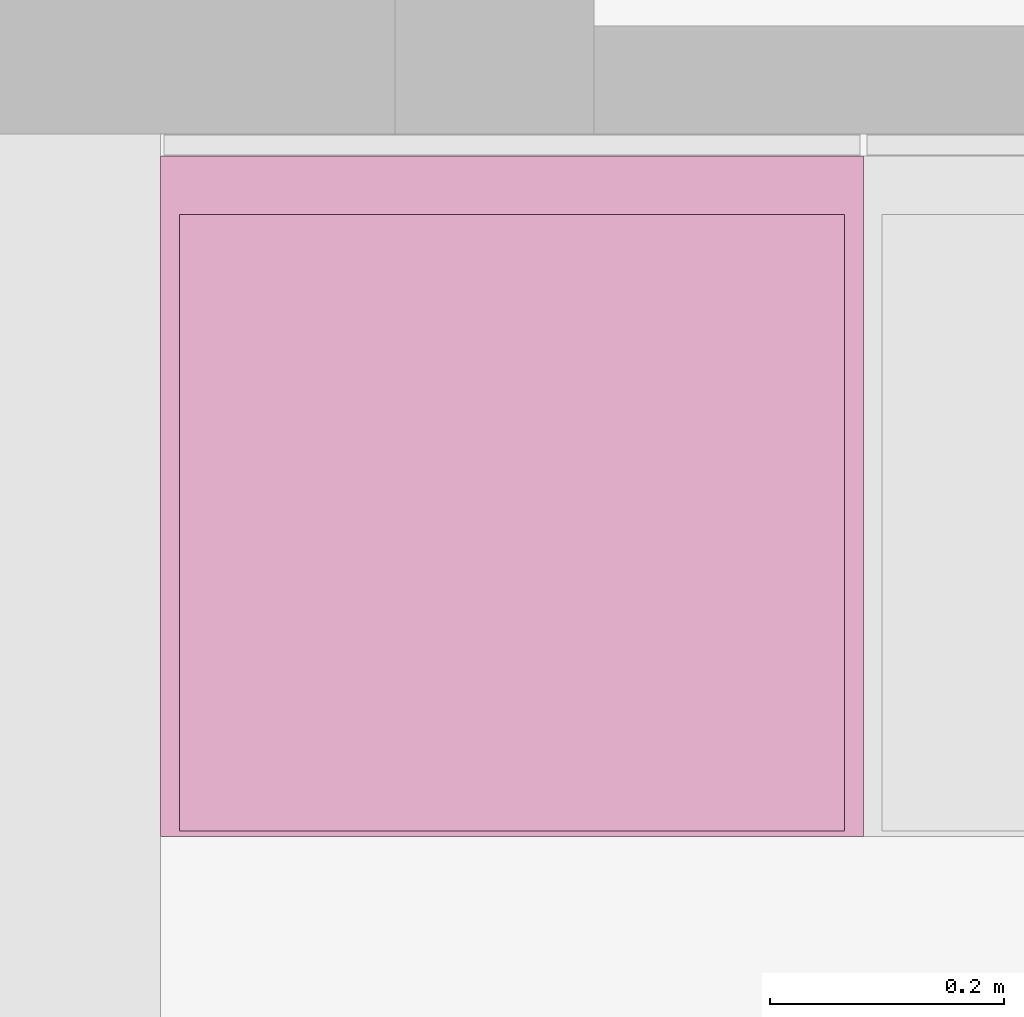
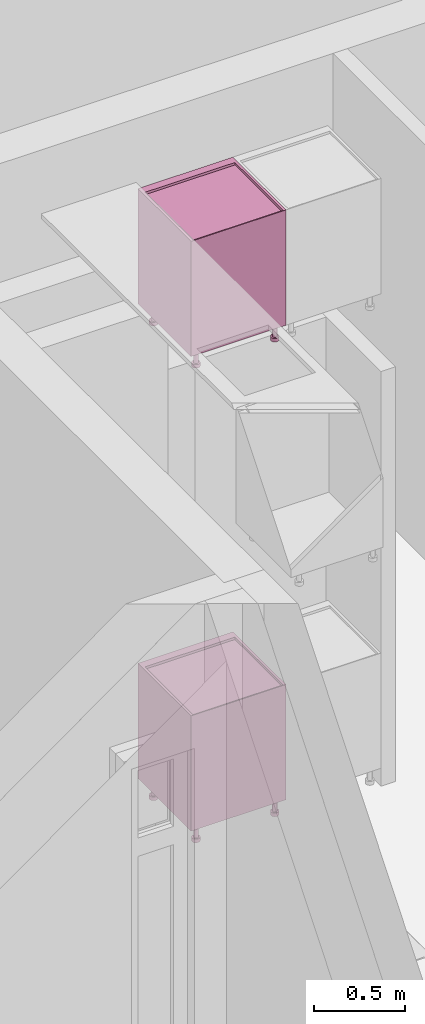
# One storey, part 60 of 125: 2 furnishings.
"""IFC2X3 building model written with IfcOpenShell, lengths in millimetres."""

from ifc_helpers import new_model, entity, si_unit, converted_unit, direction, frame, origin, place, context, subcontext, project, spatial, faceted_brep, source, transform, mapped, material, type_object, type_shapes, element, save


model = new_model("IFC2X3")

# Units and contexts
model_context = context("Model", 3, precision=0.01, world=origin(), true_north=direction((6.123233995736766e-17, 1.0)))
plan_context = context("Plan", 3, precision=0.01, world=origin(), true_north=direction((6.123233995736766e-17, 1.0)))
body_context = subcontext(model_context, "Body", "Model", "MODEL_VIEW")
ifc_project = project(units=[si_unit("LENGTHUNIT", "METRE", prefix="MILLI"), converted_unit("PLANEANGLEUNIT", "DEGREE", entity("IfcPlaneAngleMeasure", 0.017453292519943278), si_unit("PLANEANGLEUNIT", "RADIAN"), dimensions=[0, 0, 0, 0, 0, 0, 0]), si_unit("AREAUNIT", "SQUARE_METRE")], contexts=[model_context, plan_context])

# Site, building, storey, space
site_placement = place(None, origin())
site = spatial("IfcSite", under=ifc_project, at=site_placement, Name="Default", CompositionType="ELEMENT")
building_placement = place(site_placement, origin())
building = spatial("IfcBuilding", under=site, at=building_placement, CompositionType="ELEMENT")
storey_placement = place(building_placement, frame((0.0, 0.0, 3125.0)))
storey = spatial("IfcBuildingStorey", under=building, at=storey_placement, Name="2K", CompositionType="ELEMENT", Elevation=3125.0)
space_placement = place(storey_placement, origin())
space = spatial("IfcSpace", under=storey, at=space_placement, Name="2-4.2", CompositionType="ELEMENT", InteriorOrExteriorSpace="INTERNAL")

# Furnishings
ifc_material = material(Name="<Unnamed>")
furniture_type = type_object("IfcFurnitureType", Name="HR_Casework_Kitchen_Generic_Appliance_v3:Dishwasher", AssemblyPlace="NOTDEFINED", material=ifc_material)
shared_shape = source(origin(), body_context, "Body", "Brep", [
    faceted_brep([(305.7003264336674, -585.7846096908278, -3101.0), (310.6708891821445, -581.9705627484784, -3101.0), (300.70032643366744, -577.1243556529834, -3101.0), (297.32379306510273, -578.5229615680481, -3101.0), (299.91198351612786, -588.1822198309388, -3101.0), (303.59982137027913, -574.8994949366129, -3101.0), (314.4849361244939, -577.0, -3101.0), (305.82468208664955, -572.0, -3101.0), (307.2232880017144, -568.6234666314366, -3101.0), (316.8825462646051, -571.2116570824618, -3101.0), (307.70032643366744, -565.0, -3101.0), (317.7003264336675, -565.0, -3101.0), (307.2232880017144, -561.3765333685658, -3101.0), (316.88254626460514, -558.7883429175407, -3101.0), (305.82468208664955, -558.0, -3101.0), (314.484936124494, -553.0, -3101.0), (303.59982137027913, -555.1005050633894, -3101.0), (310.67088918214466, -548.0294372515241, -3101.0), (300.70032643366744, -552.875644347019, -3101.0), (305.7003264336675, -544.2153903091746, -3101.0), (297.32379306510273, -551.4770384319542, -3101.0), (299.91198351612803, -541.8177801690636, -3101.0), (293.7003264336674, -551.0, -3101.0), (293.70032643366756, -541.0, -3101.0), (290.07685980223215, -551.4770384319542, -3101.0), (287.488669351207, -541.8177801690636, -3101.0), (286.70032643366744, -552.875644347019, -3101.0), (281.7003264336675, -544.2153903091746, -3101.0), (283.80083149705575, -555.1005050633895, -3101.0), (276.7297636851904, -548.029437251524, -3101.0), (281.5759707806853, -558.0, -3101.0), (272.91571674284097, -553.0, -3101.0), (270.51810660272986, -558.7883429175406, -3101.0), (280.1773648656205, -561.3765333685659, -3101.0), (269.7003264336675, -565.0, -3101.0), (279.7003264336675, -565.0, -3101.0), (270.51810660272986, -571.2116570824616, -3101.0), (280.1773648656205, -568.6234666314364, -3101.0), (272.9157167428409, -577.0, -3101.0), (281.57597078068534, -572.0, -3101.0), (276.7297636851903, -581.9705627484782, -3101.0), (283.80083149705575, -574.8994949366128, -3101.0), (281.70032643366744, -585.7846096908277, -3101.0), (286.70032643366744, -577.1243556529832, -3101.0), (287.4886693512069, -588.1822198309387, -3101.0), (290.07685980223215, -578.5229615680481, -3101.0), (293.7003264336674, -589.0, -3101.0), (293.70032643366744, -579.0, -3101.0), (299.91198351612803, -541.8177801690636, -3125.0), (305.7003264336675, -544.2153903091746, -3125.0), (310.67088918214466, -548.0294372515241, -3125.0), (314.484936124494, -553.0, -3125.0), (316.88254626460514, -558.7883429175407, -3125.0), (317.7003264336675, -565.0, -3125.0), (316.8825462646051, -571.2116570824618, -3125.0), (314.4849361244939, -577.0, -3125.0), (310.6708891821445, -581.9705627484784, -3125.0), (305.7003264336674, -585.7846096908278, -3125.0), (299.91198351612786, -588.1822198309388, -3125.0), (293.7003264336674, -589.0, -3125.0), (287.4886693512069, -588.1822198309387, -3125.0), (281.70032643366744, -585.7846096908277, -3125.0), (276.7297636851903, -581.9705627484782, -3125.0), (272.9157167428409, -577.0, -3125.0), (270.51810660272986, -571.2116570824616, -3125.0), (269.7003264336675, -565.0, -3125.0), (270.51810660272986, -558.7883429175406, -3125.0), (272.91571674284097, -553.0, -3125.0), (276.7297636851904, -548.029437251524, -3125.0), (281.7003264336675, -544.2153903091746, -3125.0), (287.488669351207, -541.8177801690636, -3125.0), (293.70032643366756, -541.0, -3125.0), (297.32379306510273, -578.5229615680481, -3025.0), (300.70032643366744, -577.1243556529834, -3025.0), (303.59982137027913, -574.8994949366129, -3025.0), (305.8246820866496, -572.0, -3025.0), (307.2232880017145, -568.6234666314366, -3025.0), (307.70032643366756, -565.0, -3025.0), (307.2232880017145, -561.3765333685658, -3025.0), (305.8246820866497, -558.0, -3025.0), (303.5998213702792, -555.1005050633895, -3025.0), (300.70032643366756, -552.875644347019, -3025.0), (297.32379306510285, -551.4770384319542, -3025.0), (293.70032643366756, -551.0, -3025.0), (290.07685980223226, -551.4770384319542, -3025.0), (286.70032643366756, -552.875644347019, -3025.0), (283.80083149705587, -555.1005050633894, -3025.0), (281.5759707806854, -558.0, -3025.0), (280.1773648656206, -561.3765333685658, -3025.0), (279.70032643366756, -565.0, -3025.0), (280.1773648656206, -568.6234666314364, -3025.0), (281.5759707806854, -572.0, -3025.0), (283.8008314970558, -574.8994949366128, -3025.0), (286.7003264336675, -577.1243556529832, -3025.0), (290.07685980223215, -578.5229615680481, -3025.0), (293.70032643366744, -579.0, -3025.0)], [[[0, 1, 2]], [[0, 2, 3]], [[3, 4, 0]], [[2, 1, 5]], [[6, 5, 1]], [[7, 5, 6]], [[8, 7, 6]], [[8, 6, 9]], [[8, 9, 10]], [[10, 9, 11]], [[12, 10, 11]], [[12, 11, 13]], [[14, 12, 13]], [[14, 13, 15]], [[16, 14, 15]], [[15, 17, 16]], [[17, 18, 16]], [[18, 17, 19]], [[18, 19, 20]], [[21, 20, 19]], [[20, 21, 22]], [[22, 21, 23]], [[23, 24, 22]], [[24, 23, 25]], [[24, 25, 26]], [[27, 26, 25]], [[27, 28, 26]], [[27, 29, 28]], [[30, 28, 29]], [[31, 30, 29]], [[32, 30, 31]], [[33, 30, 32]], [[33, 32, 34]], [[34, 35, 33]], [[36, 35, 34]], [[36, 37, 35]], [[37, 36, 38]], [[39, 37, 38]], [[39, 38, 40]], [[39, 40, 41]], [[40, 42, 41]], [[41, 42, 43]], [[43, 42, 44]], [[44, 45, 43]], [[46, 45, 44]], [[4, 47, 46]], [[45, 46, 47]], [[4, 3, 47]], [[48, 49, 50, 51, 52, 53, 54, 55, 56, 57, 58, 59, 60, 61, 62, 63, 64, 65, 66, 67, 68, 69, 70, 71]], [[64, 36, 34, 65]], [[63, 38, 36, 64]], [[42, 40, 62, 61]], [[63, 62, 40, 38]], [[44, 42, 61, 60]], [[46, 44, 60, 59]], [[58, 4, 46, 59]], [[57, 0, 4, 58]], [[54, 53, 11, 9]], [[1, 0, 57, 56]], [[6, 55, 54, 9]], [[6, 1, 56, 55]], [[52, 13, 11, 53]], [[51, 15, 13, 52]], [[19, 17, 50, 49]], [[51, 50, 17, 15]], [[21, 19, 49, 48]], [[23, 21, 48, 71]], [[27, 69, 68, 29]], [[31, 67, 66, 32]], [[68, 67, 31, 29]], [[32, 66, 65, 34]], [[25, 70, 69, 27]], [[70, 25, 23, 71]], [[72, 73, 74, 75, 76, 77, 78, 79, 80, 81, 82, 83, 84, 85, 86, 87, 88, 89, 90, 91, 92, 93, 94, 95]], [[37, 39, 91, 90]], [[35, 37, 90, 89]], [[43, 45, 94, 93]], [[41, 43, 93, 92]], [[39, 41, 92, 91]], [[47, 95, 94, 45]], [[2, 5, 74, 73]], [[3, 2, 73, 72]], [[8, 10, 77, 76]], [[7, 8, 76, 75]], [[5, 7, 75, 74]], [[3, 72, 95, 47]], [[79, 78, 12, 14]], [[78, 77, 10, 12]], [[80, 16, 18, 81]], [[16, 80, 79, 14]], [[81, 18, 20, 82]], [[22, 83, 82, 20]], [[26, 28, 86, 85]], [[24, 26, 85, 84]], [[33, 35, 89, 88]], [[30, 33, 88, 87]], [[28, 30, 87, 86]], [[24, 84, 83, 22]]]),
    faceted_brep([(-192.29967356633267, -585.7846096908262, -3101.0), (-187.3291108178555, -581.9705627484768, -3101.0), (-197.29967356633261, -577.1243556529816, -3101.0), (-200.67620693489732, -578.5229615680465, -3101.0), (-198.08801648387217, -588.1822198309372, -3101.0), (-194.40017862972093, -574.8994949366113, -3101.0), (-183.51506387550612, -577.0, -3101.0), (-192.17531791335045, -572.0, -3101.0), (-190.77671199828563, -568.6234666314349, -3101.0), (-181.11745373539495, -571.2116570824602, -3101.0), (-190.29967356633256, -565.0, -3101.0), (-180.29967356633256, -565.0, -3101.0), (-190.77671199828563, -561.3765333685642, -3101.0), (-181.11745373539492, -558.788342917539, -3101.0), (-192.17531791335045, -558.0, -3101.0), (-183.515063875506, -553.0, -3101.0), (-194.40017862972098, -555.1005050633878, -3101.0), (-187.3291108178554, -548.0294372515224, -3101.0), (-197.29967356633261, -552.8756443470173, -3101.0), (-192.29967356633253, -544.215390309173, -3101.0), (-200.67620693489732, -551.4770384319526, -3101.0), (-198.08801648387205, -541.8177801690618, -3101.0), (-204.29967356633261, -551.0, -3101.0), (-204.29967356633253, -541.0, -3101.0), (-207.92314019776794, -551.4770384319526, -3101.0), (-210.51133064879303, -541.8177801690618, -3101.0), (-211.29967356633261, -552.8756443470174, -3101.0), (-216.29967356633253, -544.215390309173, -3101.0), (-214.19916850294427, -555.1005050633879, -3101.0), (-221.27023631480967, -548.0294372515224, -3101.0), (-216.42402921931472, -558.0, -3101.0), (-225.08428325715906, -553.0, -3101.0), (-227.48189339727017, -558.788342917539, -3101.0), (-217.8226351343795, -561.3765333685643, -3101.0), (-228.2996735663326, -565.0, -3101.0), (-218.29967356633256, -565.0, -3101.0), (-227.48189339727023, -571.21165708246, -3101.0), (-217.8226351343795, -568.6234666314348, -3101.0), (-225.08428325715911, -577.0, -3101.0), (-216.42402921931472, -572.0, -3101.0), (-221.27023631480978, -581.9705627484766, -3101.0), (-214.19916850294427, -574.8994949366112, -3101.0), (-216.29967356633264, -585.784609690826, -3101.0), (-211.29967356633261, -577.1243556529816, -3101.0), (-210.51133064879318, -588.1822198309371, -3101.0), (-207.9231401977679, -578.5229615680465, -3101.0), (-204.2996735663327, -589.0, -3101.0), (-204.29967356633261, -579.0, -3101.0), (-198.08801648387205, -541.8177801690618, -3125.0), (-192.29967356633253, -544.215390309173, -3125.0), (-187.3291108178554, -548.0294372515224, -3125.0), (-183.515063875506, -553.0, -3125.0), (-181.11745373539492, -558.788342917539, -3125.0), (-180.29967356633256, -565.0, -3125.0), (-181.11745373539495, -571.2116570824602, -3125.0), (-183.51506387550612, -577.0, -3125.0), (-187.3291108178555, -581.9705627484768, -3125.0), (-192.29967356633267, -585.7846096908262, -3125.0), (-198.08801648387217, -588.1822198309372, -3125.0), (-204.2996735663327, -589.0, -3125.0), (-210.51133064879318, -588.1822198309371, -3125.0), (-216.29967356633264, -585.784609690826, -3125.0), (-221.27023631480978, -581.9705627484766, -3125.0), (-225.08428325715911, -577.0, -3125.0), (-227.48189339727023, -571.21165708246, -3125.0), (-228.2996735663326, -565.0, -3125.0), (-227.48189339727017, -558.788342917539, -3125.0), (-225.08428325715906, -553.0, -3125.0), (-221.27023631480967, -548.0294372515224, -3125.0), (-216.29967356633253, -544.215390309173, -3125.0), (-210.51133064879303, -541.8177801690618, -3125.0), (-204.29967356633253, -541.0, -3125.0), (-200.67620693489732, -578.5229615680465, -3025.0), (-197.29967356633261, -577.1243556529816, -3025.0), (-194.40017862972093, -574.8994949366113, -3025.0), (-192.17531791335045, -572.0, -3025.0), (-190.77671199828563, -568.6234666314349, -3025.0), (-190.29967356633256, -565.0, -3025.0), (-190.77671199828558, -561.3765333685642, -3025.0), (-192.1753179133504, -558.0, -3025.0), (-194.40017862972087, -555.1005050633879, -3025.0), (-197.29967356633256, -552.8756443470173, -3025.0), (-200.67620693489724, -551.4770384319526, -3025.0), (-204.29967356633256, -551.0, -3025.0), (-207.92314019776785, -551.4770384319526, -3025.0), (-211.29967356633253, -552.8756443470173, -3025.0), (-214.1991685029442, -555.1005050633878, -3025.0), (-216.4240292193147, -558.0, -3025.0), (-217.8226351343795, -561.3765333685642, -3025.0), (-218.29967356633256, -565.0, -3025.0), (-217.8226351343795, -568.6234666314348, -3025.0), (-216.42402921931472, -572.0, -3025.0), (-214.19916850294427, -574.8994949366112, -3025.0), (-211.2996735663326, -577.1243556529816, -3025.0), (-207.9231401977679, -578.5229615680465, -3025.0), (-204.29967356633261, -579.0, -3025.0)], [[[0, 1, 2]], [[0, 2, 3]], [[3, 4, 0]], [[2, 1, 5]], [[6, 5, 1]], [[7, 5, 6]], [[8, 7, 6]], [[8, 6, 9]], [[8, 9, 10]], [[10, 9, 11]], [[12, 10, 11]], [[12, 11, 13]], [[14, 12, 13]], [[14, 13, 15]], [[16, 14, 15]], [[15, 17, 16]], [[17, 18, 16]], [[18, 17, 19]], [[18, 19, 20]], [[21, 20, 19]], [[20, 21, 22]], [[22, 21, 23]], [[23, 24, 22]], [[24, 23, 25]], [[24, 25, 26]], [[27, 26, 25]], [[27, 28, 26]], [[27, 29, 28]], [[30, 28, 29]], [[31, 30, 29]], [[32, 30, 31]], [[33, 30, 32]], [[33, 32, 34]], [[34, 35, 33]], [[36, 35, 34]], [[36, 37, 35]], [[37, 36, 38]], [[39, 37, 38]], [[39, 38, 40]], [[39, 40, 41]], [[40, 42, 41]], [[41, 42, 43]], [[43, 42, 44]], [[44, 45, 43]], [[46, 45, 44]], [[4, 47, 46]], [[45, 46, 47]], [[4, 3, 47]], [[48, 49, 50, 51, 52, 53, 54, 55, 56, 57, 58, 59, 60, 61, 62, 63, 64, 65, 66, 67, 68, 69, 70, 71]], [[64, 36, 34, 65]], [[63, 38, 36, 64]], [[42, 40, 62, 61]], [[63, 62, 40, 38]], [[44, 42, 61, 60]], [[46, 44, 60, 59]], [[58, 4, 46, 59]], [[57, 0, 4, 58]], [[54, 53, 11, 9]], [[1, 0, 57, 56]], [[6, 55, 54, 9]], [[6, 1, 56, 55]], [[52, 13, 11, 53]], [[51, 15, 13, 52]], [[19, 17, 50, 49]], [[51, 50, 17, 15]], [[21, 19, 49, 48]], [[23, 21, 48, 71]], [[27, 69, 68, 29]], [[31, 67, 66, 32]], [[68, 67, 31, 29]], [[32, 66, 65, 34]], [[25, 70, 69, 27]], [[70, 25, 23, 71]], [[72, 73, 74, 75, 76, 77, 78, 79, 80, 81, 82, 83, 84, 85, 86, 87, 88, 89, 90, 91, 92, 93, 94, 95]], [[37, 39, 91, 90]], [[35, 37, 90, 89]], [[43, 45, 94, 93]], [[41, 43, 93, 92]], [[39, 41, 92, 91]], [[47, 95, 94, 45]], [[2, 5, 74, 73]], [[3, 2, 73, 72]], [[8, 10, 77, 76]], [[7, 8, 76, 75]], [[5, 7, 75, 74]], [[3, 72, 95, 47]], [[79, 78, 12, 14]], [[78, 77, 10, 12]], [[80, 16, 18, 81]], [[16, 80, 79, 14]], [[81, 18, 20, 82]], [[22, 83, 82, 20]], [[26, 28, 86, 85]], [[24, 26, 85, 84]], [[33, 35, 89, 88]], [[30, 33, 88, 87]], [[28, 30, 87, 86]], [[24, 84, 83, 22]]]),
    faceted_brep([(305.70032643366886, -120.78460969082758, -3101.0), (310.670889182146, -116.97056274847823, -3101.0), (300.7003264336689, -112.12435565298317, -3101.0), (297.3237930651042, -113.52296156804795, -3101.0), (299.91198351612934, -123.18221983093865, -3101.0), (303.5998213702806, -109.8994949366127, -3101.0), (314.48493612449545, -112.0, -3101.0), (305.824682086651, -107.0, -3101.0), (307.2232880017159, -103.62346663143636, -3101.0), (316.88254626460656, -106.21165708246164, -3101.0), (307.700326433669, -100.0, -3101.0), (317.700326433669, -100.0, -3101.0), (307.2232880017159, -96.3765333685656, -3101.0), (316.8825462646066, -93.78834291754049, -3101.0), (305.824682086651, -93.0, -3101.0), (314.4849361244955, -88.0, -3101.0), (303.5998213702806, -90.10050506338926, -3101.0), (310.67088918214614, -83.02943725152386, -3101.0), (300.7003264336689, -87.8756443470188, -3101.0), (305.700326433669, -79.21539030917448, -3101.0), (297.3237930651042, -86.477038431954, -3101.0), (299.9119835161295, -76.81778016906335, -3101.0), (293.70032643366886, -86.0, -3101.0), (293.70032643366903, -76.0, -3101.0), (290.0768598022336, -86.47703843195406, -3101.0), (287.4886693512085, -76.81778016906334, -3101.0), (286.7003264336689, -87.87564434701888, -3101.0), (281.700326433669, -79.21539030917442, -3101.0), (283.8008314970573, -90.10050506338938, -3101.0), (276.72976368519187, -83.0294372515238, -3101.0), (281.5759707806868, -93.0, -3101.0), (272.91571674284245, -88.0, -3101.0), (270.51810660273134, -93.78834291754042, -3101.0), (280.177364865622, -96.37653336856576, -3101.0), (269.700326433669, -100.0, -3101.0), (279.700326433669, -100.0, -3101.0), (270.51810660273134, -106.2116570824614, -3101.0), (280.177364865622, -103.62346663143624, -3101.0), (272.9157167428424, -112.0, -3101.0), (281.5759707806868, -107.0, -3101.0), (276.72976368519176, -116.97056274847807, -3101.0), (283.8008314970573, -109.89949493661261, -3101.0), (281.7003264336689, -120.78460969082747, -3101.0), (286.7003264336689, -112.1243556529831, -3101.0), (287.4886693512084, -123.1822198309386, -3101.0), (290.0768598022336, -113.52296156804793, -3101.0), (293.70032643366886, -124.0, -3101.0), (293.7003264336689, -114.0, -3101.0), (299.9119835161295, -76.81778016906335, -3125.0), (305.700326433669, -79.21539030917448, -3125.0), (310.67088918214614, -83.02943725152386, -3125.0), (314.4849361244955, -88.0, -3125.0), (316.8825462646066, -93.78834291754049, -3125.0), (317.700326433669, -100.0, -3125.0), (316.88254626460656, -106.21165708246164, -3125.0), (314.48493612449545, -112.0, -3125.0), (310.670889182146, -116.97056274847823, -3125.0), (305.70032643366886, -120.78460969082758, -3125.0), (299.91198351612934, -123.18221983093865, -3125.0), (293.70032643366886, -124.0, -3125.0), (287.4886693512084, -123.1822198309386, -3125.0), (281.7003264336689, -120.78460969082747, -3125.0), (276.72976368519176, -116.97056274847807, -3125.0), (272.9157167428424, -112.0, -3125.0), (270.51810660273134, -106.2116570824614, -3125.0), (269.700326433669, -100.0, -3125.0), (270.51810660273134, -93.78834291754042, -3125.0), (272.91571674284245, -88.0, -3125.0), (276.72976368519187, -83.0294372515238, -3125.0), (281.700326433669, -79.21539030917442, -3125.0), (287.4886693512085, -76.81778016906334, -3125.0), (293.70032643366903, -76.0, -3125.0), (297.32379306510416, -113.52296156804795, -3025.0), (300.70032643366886, -112.12435565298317, -3025.0), (303.59982137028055, -109.8994949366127, -3025.0), (305.824682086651, -107.0, -3025.0), (307.22328800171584, -103.62346663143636, -3025.0), (307.700326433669, -100.0, -3025.0), (307.2232880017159, -96.3765333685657, -3025.0), (305.82468208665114, -93.0, -3025.0), (303.5998213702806, -90.10050506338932, -3025.0), (300.700326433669, -87.87564434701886, -3025.0), (297.32379306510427, -86.47703843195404, -3025.0), (293.700326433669, -86.0, -3025.0), (290.0768598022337, -86.47703843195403, -3025.0), (286.700326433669, -87.87564434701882, -3025.0), (283.8008314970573, -90.1005050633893, -3025.0), (281.5759707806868, -93.0, -3025.0), (280.177364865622, -96.37653336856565, -3025.0), (279.700326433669, -100.0, -3025.0), (280.177364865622, -103.62346663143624, -3025.0), (281.5759707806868, -107.0, -3025.0), (283.80083149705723, -109.89949493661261, -3025.0), (286.7003264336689, -112.1243556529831, -3025.0), (290.07685980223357, -113.52296156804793, -3025.0), (293.70032643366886, -114.0, -3025.0)], [[[0, 1, 2]], [[0, 2, 3]], [[3, 4, 0]], [[2, 1, 5]], [[6, 5, 1]], [[7, 5, 6]], [[8, 7, 6]], [[8, 6, 9]], [[8, 9, 10]], [[10, 9, 11]], [[12, 10, 11]], [[12, 11, 13]], [[14, 12, 13]], [[14, 13, 15]], [[16, 14, 15]], [[15, 17, 16]], [[17, 18, 16]], [[18, 17, 19]], [[18, 19, 20]], [[21, 20, 19]], [[20, 21, 22]], [[22, 21, 23]], [[23, 24, 22]], [[24, 23, 25]], [[24, 25, 26]], [[27, 26, 25]], [[27, 28, 26]], [[27, 29, 28]], [[30, 28, 29]], [[31, 30, 29]], [[32, 30, 31]], [[33, 30, 32]], [[33, 32, 34]], [[34, 35, 33]], [[36, 35, 34]], [[36, 37, 35]], [[37, 36, 38]], [[39, 37, 38]], [[39, 38, 40]], [[39, 40, 41]], [[40, 42, 41]], [[41, 42, 43]], [[43, 42, 44]], [[44, 45, 43]], [[46, 45, 44]], [[4, 47, 46]], [[45, 46, 47]], [[4, 3, 47]], [[48, 49, 50, 51, 52, 53, 54, 55, 56, 57, 58, 59, 60, 61, 62, 63, 64, 65, 66, 67, 68, 69, 70, 71]], [[64, 36, 34, 65]], [[63, 38, 36, 64]], [[42, 40, 62, 61]], [[63, 62, 40, 38]], [[44, 42, 61, 60]], [[46, 44, 60, 59]], [[58, 4, 46, 59]], [[57, 0, 4, 58]], [[54, 53, 11, 9]], [[1, 0, 57, 56]], [[6, 55, 54, 9]], [[6, 1, 56, 55]], [[52, 13, 11, 53]], [[51, 15, 13, 52]], [[19, 17, 50, 49]], [[51, 50, 17, 15]], [[21, 19, 49, 48]], [[23, 21, 48, 71]], [[27, 69, 68, 29]], [[31, 67, 66, 32]], [[68, 67, 31, 29]], [[32, 66, 65, 34]], [[25, 70, 69, 27]], [[70, 25, 23, 71]], [[72, 73, 74, 75, 76, 77, 78, 79, 80, 81, 82, 83, 84, 85, 86, 87, 88, 89, 90, 91, 92, 93, 94, 95]], [[37, 39, 91, 90]], [[35, 37, 90, 89]], [[43, 45, 94, 93]], [[41, 43, 93, 92]], [[39, 41, 92, 91]], [[47, 95, 94, 45]], [[2, 5, 74, 73]], [[3, 2, 73, 72]], [[8, 10, 77, 76]], [[7, 8, 76, 75]], [[5, 7, 75, 74]], [[3, 72, 95, 47]], [[79, 78, 12, 14]], [[78, 77, 10, 12]], [[80, 16, 18, 81]], [[16, 80, 79, 14]], [[81, 18, 20, 82]], [[22, 83, 82, 20]], [[26, 28, 86, 85]], [[24, 26, 85, 84]], [[33, 35, 89, 88]], [[30, 33, 88, 87]], [[28, 30, 87, 86]], [[24, 84, 83, 22]]]),
    faceted_brep([(-192.299673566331, -120.78460969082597, -3101.0), (-187.3291108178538, -116.97056274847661, -3101.0), (-197.29967356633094, -112.12435565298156, -3101.0), (-200.67620693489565, -113.52296156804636, -3101.0), (-198.0880164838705, -123.18221983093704, -3101.0), (-194.40017862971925, -109.89949493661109, -3101.0), (-183.5150638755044, -112.0, -3101.0), (-192.17531791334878, -107.0, -3101.0), (-190.77671199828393, -103.62346663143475, -3101.0), (-181.11745373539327, -106.21165708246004, -3101.0), (-190.29967356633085, -100.0, -3101.0), (-180.29967356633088, -100.0, -3101.0), (-190.77671199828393, -96.376533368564, -3101.0), (-181.11745373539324, -93.78834291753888, -3101.0), (-192.17531791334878, -93.0, -3101.0), (-183.51506387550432, -88.0, -3101.0), (-194.40017862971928, -90.10050506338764, -3101.0), (-187.32911081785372, -83.02943725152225, -3101.0), (-197.29967356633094, -87.8756443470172, -3101.0), (-192.29967356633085, -79.21539030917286, -3101.0), (-200.67620693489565, -86.4770384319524, -3101.0), (-198.08801648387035, -76.81778016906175, -3101.0), (-204.29967356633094, -86.0, -3101.0), (-204.29967356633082, -76.0, -3101.0), (-207.92314019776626, -86.47703843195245, -3101.0), (-210.51133064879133, -76.81778016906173, -3101.0), (-211.29967356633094, -87.87564434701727, -3101.0), (-216.29967356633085, -79.21539030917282, -3101.0), (-214.19916850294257, -90.10050506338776, -3101.0), (-221.270236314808, -83.0294372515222, -3101.0), (-216.424029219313, -93.0, -3101.0), (-225.08428325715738, -88.0, -3101.0), (-227.4818933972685, -93.78834291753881, -3101.0), (-217.82263513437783, -96.37653336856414, -3101.0), (-228.29967356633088, -100.0, -3101.0), (-218.29967356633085, -100.0, -3101.0), (-227.48189339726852, -106.2116570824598, -3101.0), (-217.82263513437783, -103.62346663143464, -3101.0), (-225.08428325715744, -112.0, -3101.0), (-216.424029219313, -107.0, -3101.0), (-221.27023631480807, -116.97056274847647, -3101.0), (-214.19916850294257, -109.899494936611, -3101.0), (-216.29967356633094, -120.78460969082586, -3101.0), (-211.29967356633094, -112.12435565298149, -3101.0), (-210.51133064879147, -123.18221983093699, -3101.0), (-207.9231401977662, -113.52296156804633, -3101.0), (-204.299673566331, -124.0, -3101.0), (-204.29967356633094, -114.0, -3101.0), (-198.08801648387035, -76.81778016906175, -3125.0), (-192.29967356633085, -79.21539030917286, -3125.0), (-187.32911081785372, -83.02943725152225, -3125.0), (-183.51506387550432, -88.0, -3125.0), (-181.11745373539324, -93.78834291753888, -3125.0), (-180.29967356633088, -100.0, -3125.0), (-181.11745373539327, -106.21165708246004, -3125.0), (-183.5150638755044, -112.0, -3125.0), (-187.3291108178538, -116.97056274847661, -3125.0), (-192.299673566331, -120.78460969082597, -3125.0), (-198.0880164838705, -123.18221983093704, -3125.0), (-204.299673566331, -124.0, -3125.0), (-210.51133064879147, -123.18221983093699, -3125.0), (-216.29967356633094, -120.78460969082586, -3125.0), (-221.27023631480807, -116.97056274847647, -3125.0), (-225.08428325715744, -112.0, -3125.0), (-227.48189339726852, -106.2116570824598, -3125.0), (-228.29967356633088, -100.0, -3125.0), (-227.4818933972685, -93.78834291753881, -3125.0), (-225.08428325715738, -88.0, -3125.0), (-221.270236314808, -83.0294372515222, -3125.0), (-216.29967356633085, -79.21539030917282, -3125.0), (-210.51133064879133, -76.81778016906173, -3125.0), (-204.29967356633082, -76.0, -3125.0), (-200.67620693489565, -113.52296156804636, -3025.0), (-197.29967356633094, -112.12435565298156, -3025.0), (-194.40017862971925, -109.89949493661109, -3025.0), (-192.17531791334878, -107.0, -3025.0), (-190.77671199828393, -103.62346663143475, -3025.0), (-190.29967356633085, -100.0, -3025.0), (-190.7767119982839, -96.3765333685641, -3025.0), (-192.1753179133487, -93.0, -3025.0), (-194.4001786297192, -90.10050506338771, -3025.0), (-197.29967356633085, -87.87564434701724, -3025.0), (-200.67620693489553, -86.47703843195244, -3025.0), (-204.29967356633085, -86.0, -3025.0), (-207.92314019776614, -86.47703843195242, -3025.0), (-211.29967356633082, -87.87564434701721, -3025.0), (-214.1991685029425, -90.10050506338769, -3025.0), (-216.42402921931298, -93.0, -3025.0), (-217.82263513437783, -96.37653336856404, -3025.0), (-218.29967356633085, -100.0, -3025.0), (-217.82263513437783, -103.62346663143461, -3025.0), (-216.424029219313, -107.0, -3025.0), (-214.19916850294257, -109.899494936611, -3025.0), (-211.29967356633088, -112.12435565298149, -3025.0), (-207.9231401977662, -113.52296156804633, -3025.0), (-204.29967356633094, -114.0, -3025.0)], [[[0, 1, 2]], [[0, 2, 3]], [[3, 4, 0]], [[2, 1, 5]], [[6, 5, 1]], [[7, 5, 6]], [[8, 7, 6]], [[8, 6, 9]], [[8, 9, 10]], [[10, 9, 11]], [[12, 10, 11]], [[12, 11, 13]], [[14, 12, 13]], [[14, 13, 15]], [[16, 14, 15]], [[15, 17, 16]], [[17, 18, 16]], [[18, 17, 19]], [[18, 19, 20]], [[21, 20, 19]], [[20, 21, 22]], [[22, 21, 23]], [[23, 24, 22]], [[24, 23, 25]], [[24, 25, 26]], [[27, 26, 25]], [[27, 28, 26]], [[27, 29, 28]], [[30, 28, 29]], [[31, 30, 29]], [[32, 30, 31]], [[33, 30, 32]], [[33, 32, 34]], [[34, 35, 33]], [[36, 35, 34]], [[36, 37, 35]], [[37, 36, 38]], [[39, 37, 38]], [[39, 38, 40]], [[39, 40, 41]], [[40, 42, 41]], [[41, 42, 43]], [[43, 42, 44]], [[44, 45, 43]], [[46, 45, 44]], [[4, 47, 46]], [[45, 46, 47]], [[4, 3, 47]], [[48, 49, 50, 51, 52, 53, 54, 55, 56, 57, 58, 59, 60, 61, 62, 63, 64, 65, 66, 67, 68, 69, 70, 71]], [[64, 36, 34, 65]], [[63, 38, 36, 64]], [[42, 40, 62, 61]], [[63, 62, 40, 38]], [[44, 42, 61, 60]], [[46, 44, 60, 59]], [[58, 4, 46, 59]], [[57, 0, 4, 58]], [[54, 53, 11, 9]], [[1, 0, 57, 56]], [[6, 55, 54, 9]], [[6, 1, 56, 55]], [[52, 13, 11, 53]], [[51, 15, 13, 52]], [[19, 17, 50, 49]], [[51, 50, 17, 15]], [[21, 19, 49, 48]], [[23, 21, 48, 71]], [[27, 69, 68, 29]], [[31, 67, 66, 32]], [[68, 67, 31, 29]], [[32, 66, 65, 34]], [[25, 70, 69, 27]], [[70, 25, 23, 71]], [[72, 73, 74, 75, 76, 77, 78, 79, 80, 81, 82, 83, 84, 85, 86, 87, 88, 89, 90, 91, 92, 93, 94, 95]], [[37, 39, 91, 90]], [[35, 37, 90, 89]], [[43, 45, 94, 93]], [[41, 43, 93, 92]], [[39, 41, 92, 91]], [[47, 95, 94, 45]], [[2, 5, 74, 73]], [[3, 2, 73, 72]], [[8, 10, 77, 76]], [[7, 8, 76, 75]], [[5, 7, 75, 74]], [[3, 72, 95, 47]], [[79, 78, 12, 14]], [[78, 77, 10, 12]], [[80, 16, 18, 81]], [[16, 80, 79, 14]], [[81, 18, 20, 82]], [[22, 83, 82, 20]], [[26, 28, 86, 85]], [[24, 26, 85, 84]], [[33, 35, 89, 88]], [[30, 33, 88, 87]], [[28, 30, 87, 86]], [[24, 84, 83, 22]]]),
    faceted_brep([(328.70032643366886, -19.0, -3009.0), (-239.2996735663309, -19.0, -3009.0), (-239.29967356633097, -595.0, -3009.0), (328.70032643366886, -595.0, -3009.0), (328.70032643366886, -19.0, -3025.0), (328.70032643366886, -595.0, -3025.0), (-239.29967356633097, -595.0, -3025.0), (-239.29967356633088, -19.0, -3025.0)], [[[0, 1, 2, 3]], [[4, 5, 6, 7]], [[1, 0, 4, 7]], [[2, 1, 7, 6]], [[3, 2, 6, 5]], [[0, 3, 5, 4]]]),
    faceted_brep([(-255.29967356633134, -19.0, -2255.0), (-255.2996735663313, -600.0, -2255.0), (344.7003264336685, -600.0, -2255.0), (344.7003264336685, -19.0, -2255.0), (328.70032643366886, -19.0, -2255.0), (328.70032643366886, -595.0, -2255.0), (-239.2996735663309, -595.0, -2255.0), (-239.2996735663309, -19.0, -2255.0), (-255.29967356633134, -19.0, -3025.0), (-239.2996735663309, -19.0, -3025.0), (-239.29967356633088, -595.0, -3025.0), (328.70032643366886, -595.0, -3025.0), (328.70032643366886, -19.0, -3025.0), (344.7003264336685, -19.0, -3025.0), (344.7003264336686, -600.0, -3025.0), (-255.2996735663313, -600.0, -3025.0)], [[[0, 1, 2, 3, 4, 5, 6, 7]], [[8, 9, 10, 11, 12, 13, 14, 15]], [[1, 0, 8, 15]], [[0, 7, 9, 8]], [[7, 6, 10, 9]], [[5, 4, 12, 11]], [[4, 3, 13, 12]], [[3, 2, 14, 13]], [[2, 1, 15, 14]], [[6, 5, 11, 10]]]),
    faceted_brep([(328.70032643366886, -69.0, -2255.0), (328.70032643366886, -19.0, -2255.0), (-239.29967356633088, -19.0, -2255.0), (-239.29967356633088, -69.0, -2255.0), (328.70032643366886, -69.0, -2271.0), (-239.29967356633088, -69.0, -2271.0), (-239.29967356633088, -19.0, -2271.0), (328.70032643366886, -19.0, -2271.0)], [[[0, 1, 2, 3]], [[4, 5, 6, 7]], [[0, 3, 5, 4]], [[3, 2, 6, 5]], [[2, 1, 7, 6]], [[1, 0, 4, 7]]]),
    faceted_brep([(328.7003264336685, -19.0, -2271.0), (-239.29967356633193, -19.0, -2271.0), (-239.2996735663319, -595.0, -2271.0), (328.7003264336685, -595.0, -2271.0), (328.7003264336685, -19.0, -3009.0), (328.7003264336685, -595.0, -3009.0), (-239.2996735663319, -595.0, -3009.0), (-239.2996735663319, -19.0, -3009.0)], [[[0, 1, 2, 3]], [[4, 5, 6, 7]], [[1, 0, 4, 7]], [[2, 1, 7, 6]], [[3, 2, 6, 5]], [[0, 3, 5, 4]]]),
])
type_shapes(furniture_type, [shared_shape])
for number, where, name in (
    (1, (6155.2996735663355, 4240.0, 3125.0), "HR_Casework_Kitchen_Generic_Appliance_v3:Dishwasher"),
    (2, (6155.2996735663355, 4240.0, 6295.0), "HR_Casework_Kitchen_Generic_Appliance_v3:Dishwasher"),
):
    element("IfcFurnishingElement", number, at=place(space_placement, frame(where)), inside=space, type_object=furniture_type, material=ifc_material, Name=name, ObjectType="HR_Casework_Kitchen_Generic_Appliance_v3:Dishwasher", context=body_context, shape_type="MappedRepresentation", body=[
        mapped(shared_shape, transform((0.0, 0.0, 0.0), scale=1.0)),
    ])

save(model, "model.ifc")
